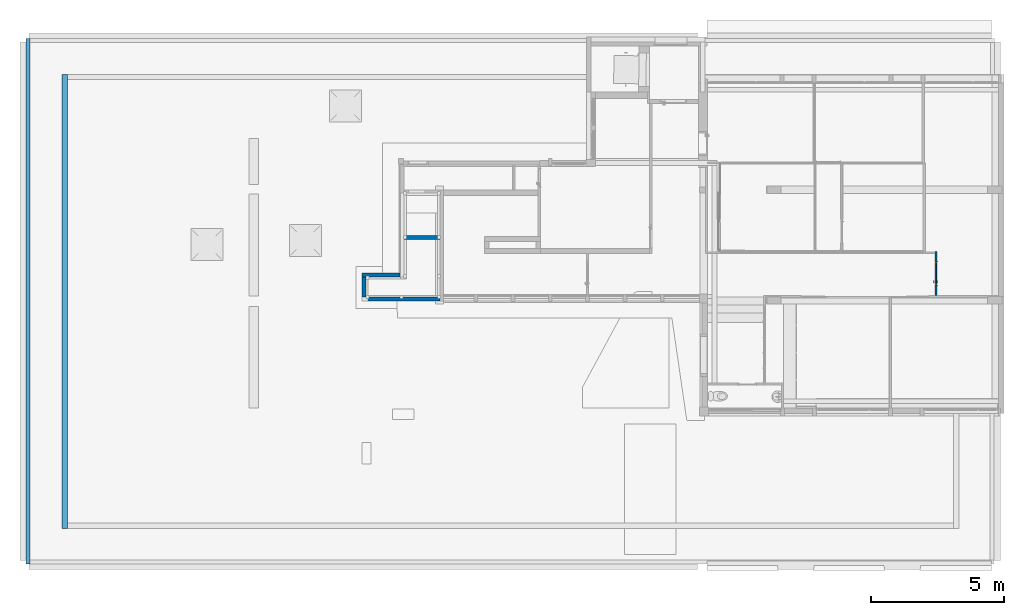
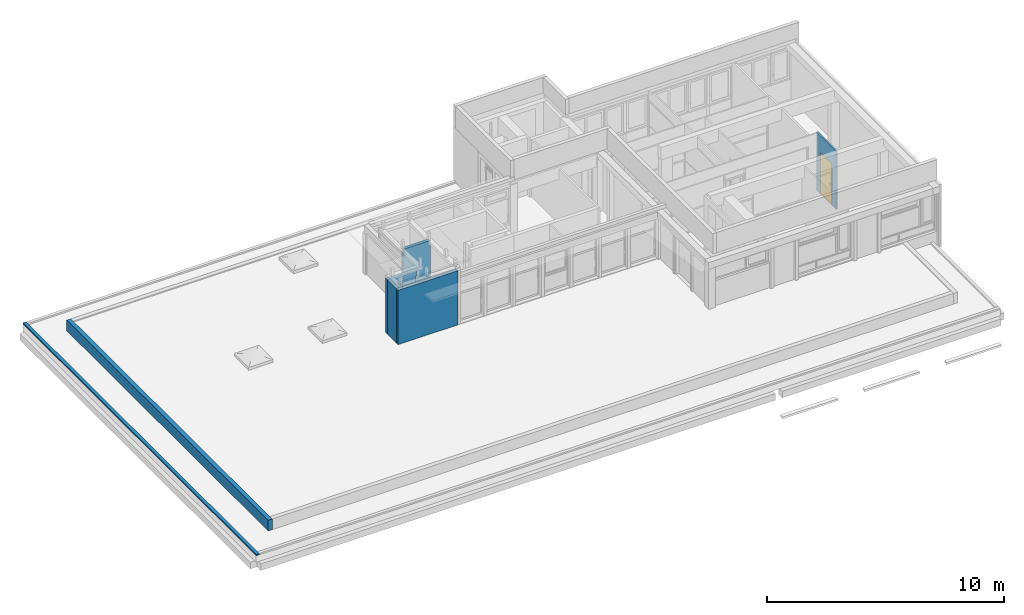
# One storey, part 26 of 49: 7 walls, 1 door, 1 opening.
"""IFC4 building model written with IfcOpenShell, lengths in metres."""

from ifc_helpers import new_model, entity, si_unit, converted_unit, derived_unit, direction, frame, origin, place, context, subcontext, project, spatial, indexed_curve, outline, extrude, polygons, source, transform, mapped, material, material_list, layer, layer_set, constituent, constituent_set, type_object, type_shapes, element, fill, save


model = new_model("IFC4")

# Units and contexts
model_context = context("Model", 3, precision=1e-05, world=origin(), true_north=direction((6.12303176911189e-17, 1.0)))
body_context = subcontext(model_context, "Body", "Model", "MODEL_VIEW")
ifc_project = project(units=[si_unit("LENGTHUNIT", "METRE"), si_unit("AREAUNIT", "SQUARE_METRE"), si_unit("VOLUMEUNIT", "CUBIC_METRE"), converted_unit("PLANEANGLEUNIT", "DEGREE", entity("IfcRatioMeasure", 0.0174532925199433), si_unit("PLANEANGLEUNIT", "RADIAN"), dimensions=[0, 0, 0, 0, 0, 0, 0]), si_unit("MASSUNIT", "GRAM", prefix="KILO"), derived_unit("MASSDENSITYUNIT", [(si_unit("MASSUNIT", "GRAM", prefix="KILO"), 1), (si_unit("LENGTHUNIT", "METRE"), -3)]), derived_unit("MOMENTOFINERTIAUNIT", [(si_unit("LENGTHUNIT", "METRE"), 4)]), si_unit("TIMEUNIT", "SECOND"), si_unit("FREQUENCYUNIT", "HERTZ"), si_unit("THERMODYNAMICTEMPERATUREUNIT", "DEGREE_CELSIUS"), derived_unit("THERMALTRANSMITTANCEUNIT", [(si_unit("MASSUNIT", "GRAM", prefix="KILO"), 1), (si_unit("THERMODYNAMICTEMPERATUREUNIT", "KELVIN"), -1), (si_unit("TIMEUNIT", "SECOND"), -3)]), derived_unit("VOLUMETRICFLOWRATEUNIT", [(si_unit("LENGTHUNIT", "METRE"), 3), (si_unit("TIMEUNIT", "SECOND"), -1)]), si_unit("ELECTRICCURRENTUNIT", "AMPERE"), si_unit("ELECTRICVOLTAGEUNIT", "VOLT"), si_unit("POWERUNIT", "WATT"), si_unit("FORCEUNIT", "NEWTON", prefix="KILO"), si_unit("ILLUMINANCEUNIT", "LUX"), si_unit("LUMINOUSFLUXUNIT", "LUMEN"), si_unit("LUMINOUSINTENSITYUNIT", "CANDELA"), derived_unit("USERDEFINED", [(si_unit("MASSUNIT", "GRAM", prefix="KILO"), -1), (si_unit("LENGTHUNIT", "METRE"), -2), (si_unit("TIMEUNIT", "SECOND"), 3), (si_unit("LUMINOUSFLUXUNIT", "LUMEN"), 1)]), derived_unit("LINEARVELOCITYUNIT", [(si_unit("LENGTHUNIT", "METRE"), 1), (si_unit("TIMEUNIT", "SECOND"), -1)]), si_unit("PRESSUREUNIT", "PASCAL"), derived_unit("USERDEFINED", [(si_unit("LENGTHUNIT", "METRE"), -2), (si_unit("MASSUNIT", "GRAM", prefix="KILO"), 1), (si_unit("TIMEUNIT", "SECOND"), -2)]), derived_unit("LINEARFORCEUNIT", [(si_unit("MASSUNIT", "GRAM", prefix="KILO"), 1), (si_unit("LENGTHUNIT", "METRE"), 1), (si_unit("TIMEUNIT", "SECOND"), -2), (si_unit("LENGTHUNIT", "METRE"), -1)]), derived_unit("PLANARFORCEUNIT", [(si_unit("MASSUNIT", "GRAM", prefix="KILO"), 1), (si_unit("LENGTHUNIT", "METRE"), 1), (si_unit("TIMEUNIT", "SECOND"), -2), (si_unit("LENGTHUNIT", "METRE"), -2)])], contexts=[model_context])

# Site, building, storey
site_placement = place(None, origin())
site = spatial("IfcSite", under=ifc_project, at=site_placement, Name="Default", CompositionType="ELEMENT")
building_placement = place(site_placement, origin())
building = spatial("IfcBuilding", under=site, at=building_placement, Name="HOTEL CONSULAIRE BOULOGNE SUR MER", CompositionType="ELEMENT")
storey_placement = place(building_placement, frame((0.0, 0.0, 6.81974152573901)))
storey = spatial("IfcBuildingStorey", under=building, at=storey_placement, Name="Niveau 2", CompositionType="ELEMENT", Elevation=6.81974152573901)

# Walls
ifc_material_1 = material(Name="Mur par défaut", Category="Divers")
ifc_layer_1 = layer(ifc_material_1, 0.15, Name="Mur par défaut", Category="Divers")
ifc_layer_set_1 = layer_set([ifc_layer_1], Name="Mur de base:Générique - Int. 150 mm")
wall_type_1 = type_object("IfcWallType", Name="Mur de base:Générique - Int. 150 mm", PredefinedType="NOTDEFINED", material=ifc_layer_set_1)
wall_1_placement = place(storey_placement, frame((0.161635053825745, -18.8296212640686, 0.642000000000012), z_axis=(0.0, 0.0, 1.0), x_axis=(-1.0, 0.0, 0.0)))
element("IfcWall", 1, at=wall_1_placement, inside=storey, type_object=wall_type_1, material=ifc_layer_set_1, Name="Mur de base:Générique - Int. 150 mm", ObjectType="Mur de base:Générique - Int. 150 mm", PredefinedType="NOTDEFINED", context=body_context, shape_type="Tessellation", body=[
    polygons([(1.447, -0.0750000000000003, 2.79989999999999), (1.43543327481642e-16, -0.0750000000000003, 2.79989999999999), (2.11222523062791e-16, -0.0750000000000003, 2.506), (0.0700000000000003, -0.0750000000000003, 2.506), (0.0700000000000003, -0.0750000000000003, 2.19799999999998), (0.0700000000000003, -0.0750000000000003, 2.09799999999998), (0.0700000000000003, -0.0750000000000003, 2.088), (0.0200000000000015, -0.0750000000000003, 2.088), (0.0200000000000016, -0.0750000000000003, 0.0), (1.447, -0.0750000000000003, 0.0), (-7.06825671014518e-18, 0.0750000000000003, 2.79989999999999), (1.297, 0.0750000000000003, 2.79989999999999), (1.447, 0.0750000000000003, 2.79989999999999), (1.447, 0.0750000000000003, 0.0), (1.297, 0.0750000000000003, 0.0), (0.0200000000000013, 0.0750000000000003, 0.0), (0.0200000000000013, 0.0750000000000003, 2.088), (0.0700000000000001, 0.0750000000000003, 2.088), (0.0700000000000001, 0.0750000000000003, 2.506), (-7.06825671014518e-18, 0.0750000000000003, 2.506)], [[[2, 3, 4, 5, 6, 7, 8, 9, 10, 1]], [[14, 15, 16, 17, 18, 19, 20, 11, 12, 13]], [[2, 1, 13, 12, 11]], [[7, 18, 17, 8]], [[1, 10, 14, 13]], [[16, 9, 8, 17]], [[18, 7, 6, 5, 4, 19]], [[20, 3, 2, 11]], [[20, 19, 4, 3]], [[15, 14, 10, 9, 16]]], closed=True),
])
wall_2_placement = place(storey_placement, frame((1.62747131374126, -19.7399143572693, 0.642000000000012), z_axis=(0.0, 0.0, 1.0), x_axis=(-1.0, 0.0, 0.0)))
element("IfcWall", 2, at=wall_2_placement, inside=storey, type_object=wall_type_1, material=ifc_layer_set_1, Name="Mur de base:Générique - Int. 150 mm", ObjectType="Mur de base:Générique - Int. 150 mm", PredefinedType="NOTDEFINED", context=body_context, shape_type="Tessellation", body=[
    polygons([(2.91283625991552, -0.0750000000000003, 2.79989999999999), (2.76283625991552, -0.0750000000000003, 2.79989999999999), (6.09990578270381e-16, -0.0750000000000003, 2.79989999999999), (6.09990578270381e-16, -0.0750000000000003, 0.0), (2.76283625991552, -0.0750000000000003, 0.0), (2.91283625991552, -0.0750000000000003, 0.0), (4.53780887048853e-16, 0.0750000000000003, 2.79989999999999), (2.91283625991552, 0.0750000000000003, 2.79989999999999), (2.91283625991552, 0.0750000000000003, 0.0), (4.53780887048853e-16, 0.0750000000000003, 0.0)], [[[3, 4, 5, 6, 1, 2]], [[8, 9, 10, 7]], [[2, 1, 8, 7, 3]], [[1, 6, 9, 8]], [[10, 4, 3, 7]], [[5, 4, 10, 9, 6]]], closed=True),
])
wall_3_placement = place(storey_placement, frame((-1.21036494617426, -18.9046212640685, 0.642000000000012), z_axis=(0.0, 0.0, 1.0), x_axis=(0.0, -1.0, 0.0)))
element("IfcWall", 3, at=wall_3_placement, inside=storey, type_object=wall_type_1, material=ifc_layer_set_1, Name="Mur de base:Générique - Int. 150 mm", ObjectType="Mur de base:Générique - Int. 150 mm", PredefinedType="NOTDEFINED", context=body_context, shape_type="Tessellation", body=[
    polygons([(0.760293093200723, -0.0750000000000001, 2.79989999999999), (0.0, -0.075, 2.79989999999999), (0.0, -0.075, 0.0), (0.760293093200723, -0.0750000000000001, 0.0), (0.0, 0.075, 2.79989999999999), (0.760293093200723, 0.0750000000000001, 2.79989999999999), (0.760293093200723, 0.0750000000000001, 0.0), (0.0, 0.075, 0.0)], [[[2, 3, 4, 1]], [[6, 7, 8, 5]], [[2, 1, 6, 5]], [[4, 7, 6, 1]], [[8, 3, 2, 5]], [[7, 4, 3, 8]]], closed=True),
])

# Wall, opening, door
ifc_layer_2 = layer(ifc_material_1, 0.08, Name="Mur par défaut", Category="Divers")
ifc_layer_set_2 = layer_set([ifc_layer_2], Name="Mur de base:Générique - Int. 80")
wall_type_2 = type_object("IfcWallType", Name="Mur de base:Générique - Int. 80", PredefinedType="NOTDEFINED", material=ifc_layer_set_2)
wall_4_placement = place(storey_placement, frame((20.2483568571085, -19.603155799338, -0.0349999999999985), z_axis=(0.0, 0.0, 1.0), x_axis=(0.0, 1.0, 0.0)))
wall_4 = element("IfcWall", 4, at=wall_4_placement, inside=storey, type_object=wall_type_2, material=ifc_layer_set_2, Name="Mur de base:Générique - Int. 80", ObjectType="Mur de base:Générique - Int. 80", PredefinedType="NOTDEFINED", context=body_context, shape_type="Tessellation", body=[
    polygons([(0.0, -0.0399999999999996, -1.08286712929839e-15), (1.64784790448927, -0.0399999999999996, -1.08286712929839e-15), (1.64784790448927, -0.0399999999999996, 2.99200000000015), (0.0, -0.0399999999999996, 2.99200000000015), (1.2746087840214, -0.0399999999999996, 2.11), (1.2746087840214, -0.0399999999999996, 0.0349999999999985), (0.374608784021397, -0.0399999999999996, 0.0349999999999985), (0.374608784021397, -0.0399999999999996, 2.11), (1.64784790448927, 0.0399999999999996, -1.08286712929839e-15), (1.62826826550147, 0.0399999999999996, -1.08286712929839e-15), (1.57826826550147, 0.0399999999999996, -1.08286712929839e-15), (0.0, 0.0399999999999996, -1.08286712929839e-15), (0.0, 0.0399999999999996, 2.99200000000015), (1.64784790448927, 0.0399999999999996, 2.99200000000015), (1.2746087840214, 0.0399999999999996, 0.0349999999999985), (1.2746087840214, 0.0399999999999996, 2.11), (0.374608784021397, 0.0399999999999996, 2.11), (0.374608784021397, 0.0399999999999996, 0.0349999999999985)], [[[1, 2, 3, 4], [8, 5, 6, 7]], [[14, 9, 10, 11, 12, 13], [16, 17, 18, 15]], [[2, 1, 12, 11, 10, 9]], [[17, 16, 5, 8]], [[3, 2, 9, 14]], [[18, 17, 8, 7]], [[16, 15, 6, 5]], [[12, 1, 4, 13]], [[15, 18, 7, 6]], [[14, 13, 4, 3]]], closed=True),
])
opening_placement = place(wall_4_placement, frame((0.374608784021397, -0.04, 0.0349999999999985)))
opening = element("IfcOpeningElement", 5, at=opening_placement, cuts=wall_4, Name="Int. Simple:PP (0.83m x 2.04m):1", ObjectType="Opening", PredefinedType="OPENING", context=body_context, shape_type="SweptSolid", body=[
    extrude(outline(indexed_curve([(0.0, 0.9), (0.0, 0.0), (2.075, 0.0), (2.075, 0.9), (0.0, 0.9)], self_intersect=False)), frame((0.0, 0.0, 0.0), z_axis=(0.0, 1.0, 0.0), x_axis=(0.0, 0.0, 1.0)), (0.0, 0.0, 1.0), 0.08),
])
ifc_material_2 = material(Name="Finition Peinture - Blanc satiné", Category="Peinture")
ifc_constituent_1 = constituent(ifc_material_2, Name="Finition Peinture - Blanc satiné", Category="Matériaux")
ifc_material_3 = material(Name="Bois - Panneau de porte", Category="Bois")
ifc_constituent_2 = constituent(ifc_material_3, Name="Bois - Panneau de porte", Category="Matériaux")
ifc_material_4 = material(Name="Bois - Cadre de porte", Category="Bois")
ifc_constituent_3 = constituent(ifc_material_4, Name="Bois - Cadre de porte", Category="Matériaux")
ifc_constituent_set = constituent_set(constituents=[ifc_constituent_1, ifc_constituent_2, ifc_constituent_3], Name="MaterialConstituentSet")
ifc_material_list = material_list([ifc_material_4, ifc_material_4, ifc_material_3, ifc_material_2])
door_type = type_object("IfcDoorType", Name="Int. Simple:PP (0.83m x 2.04m)", OperationType="NOTDEFINED", PredefinedType="DOOR", material=ifc_material_list)
shared_shape = source(origin(), body_context, "Body", "Tessellation", [
    polygons([(0.895000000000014, -0.00500000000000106, 0.870000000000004), (0.895000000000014, -0.00500000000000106, 1.08), (0.885352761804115, -0.00500000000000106, 1.08399601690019), (0.875000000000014, -0.00500000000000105, 1.08535898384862), (0.864647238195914, -0.00500000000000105, 1.08399601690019), (0.855000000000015, -0.00500000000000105, 1.08), (0.855000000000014, -0.00500000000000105, 0.870000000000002), (0.864647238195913, -0.00500000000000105, 0.866003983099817), (0.875000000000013, -0.00500000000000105, 0.86464101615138), (0.885352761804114, -0.00500000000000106, 0.866003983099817), (0.895000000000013, -1.06594733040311e-15, 0.870000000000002), (0.885352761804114, -1.06594733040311e-15, 0.866003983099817), (0.875000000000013, -1.05748743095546e-15, 0.86464101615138), (0.864647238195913, -1.05748743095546e-15, 0.866003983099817), (0.855000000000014, -1.04902753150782e-15, 0.870000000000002), (0.855000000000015, -1.04902753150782e-15, 1.08), (0.864647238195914, -1.05748743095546e-15, 1.08399601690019), (0.875000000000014, -1.05748743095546e-15, 1.08535898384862), (0.885352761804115, -1.06594733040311e-15, 1.08399601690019), (0.895000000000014, -1.06594733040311e-15, 1.08)], [[[1, 2, 3, 4, 5, 6, 7, 8, 9, 10]], [[20, 11, 12, 13, 14, 15, 16, 17, 18, 19]], [[10, 12, 11, 1]], [[9, 13, 12, 10]], [[8, 14, 13, 9]], [[8, 7, 15, 14]], [[15, 7, 6, 16]], [[5, 17, 16, 6]], [[4, 18, 17, 5]], [[3, 19, 18, 4]], [[3, 2, 20, 19]], [[11, 20, 2, 1]]], closed=True),
    polygons([(0.855000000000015, 0.0399999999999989, 1.08), (0.855000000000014, 0.0399999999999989, 0.870000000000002), (0.864647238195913, 0.0399999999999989, 0.866003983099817), (0.875000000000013, 0.0399999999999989, 0.86464101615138), (0.885352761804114, 0.0399999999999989, 0.866003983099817), (0.895000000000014, 0.0399999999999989, 0.870000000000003), (0.895000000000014, 0.0399999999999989, 1.08), (0.885352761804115, 0.0399999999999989, 1.08399601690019), (0.875000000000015, 0.0399999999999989, 1.08535898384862), (0.864647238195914, 0.0399999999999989, 1.08399601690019), (0.855000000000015, 0.0449999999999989, 1.08), (0.864647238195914, 0.0449999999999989, 1.08399601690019), (0.875000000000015, 0.0449999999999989, 1.08535898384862), (0.885352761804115, 0.0449999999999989, 1.08399601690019), (0.895000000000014, 0.0449999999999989, 1.08), (0.895000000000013, 0.0449999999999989, 0.870000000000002), (0.885352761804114, 0.0449999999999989, 0.866003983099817), (0.875000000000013, 0.0449999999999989, 0.86464101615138), (0.864647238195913, 0.0449999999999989, 0.866003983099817), (0.855000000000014, 0.0449999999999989, 0.870000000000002)], [[[6, 7, 8, 9, 10, 1, 2, 3, 4, 5]], [[13, 14, 15, 16, 17, 18, 19, 20, 11, 12]], [[10, 12, 11, 1]], [[9, 13, 12, 10]], [[8, 14, 13, 9]], [[8, 7, 15, 14]], [[16, 15, 7, 6]], [[5, 17, 16, 6]], [[4, 18, 17, 5]], [[3, 19, 18, 4]], [[3, 2, 20, 19]], [[20, 2, 1, 11]]], closed=True),
    polygons([(0.881000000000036, -0.00500000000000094, 1.00699999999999), (0.881000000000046, -0.00500000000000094, 0.992999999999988), (0.877025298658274, -0.00500000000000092, 0.99221955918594), (0.872974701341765, -0.0050000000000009, 0.992219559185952), (0.868999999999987, -0.00500000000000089, 0.993000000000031), (0.868999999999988, -0.00500000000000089, 1.007), (0.872974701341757, -0.0050000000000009, 1.00778044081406), (0.877025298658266, -0.00500000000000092, 1.00778044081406), (0.868999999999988, -0.0276803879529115, 1.007), (0.872974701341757, -0.0293267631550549, 1.00778044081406), (0.877025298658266, -0.0310045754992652, 1.00778044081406), (0.881000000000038, -0.0326509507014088, 1.007), (0.868999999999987, -0.0276803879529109, 0.993000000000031), (0.881000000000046, -0.0326509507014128, 0.992999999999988), (0.877025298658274, -0.0310045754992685, 0.99221955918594), (0.872974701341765, -0.0293267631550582, 0.992219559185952), (0.85765222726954, -0.0390281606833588, 1.007), (0.859298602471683, -0.0430028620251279, 1.00778044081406), (0.860976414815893, -0.0470534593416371, 1.00778044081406), (0.862622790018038, -0.0510281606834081, 1.007), (0.857652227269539, -0.0390281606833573, 0.993000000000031), (0.862622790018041, -0.0510281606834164, 0.992999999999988), (0.860976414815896, -0.047053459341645, 0.99221955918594), (0.859298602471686, -0.0430028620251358, 0.992219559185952), (0.774981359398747, -0.0510281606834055, 1.007), (0.774981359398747, -0.0470534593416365, 1.00778044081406), (0.774981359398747, -0.0430028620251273, 1.00778044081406), (0.774981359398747, -0.0390281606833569, 1.00699999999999), (0.774981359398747, -0.0390281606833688, 0.993000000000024), (0.774981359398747, -0.0430028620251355, 0.992219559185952), (0.774981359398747, -0.0470534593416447, 0.99221955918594), (0.774981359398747, -0.0510281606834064, 0.992999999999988), (0.822692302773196, -0.051028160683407, 1.007), (0.81713998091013, -0.045028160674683, 1.0078786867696), (0.816316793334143, -0.039028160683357, 1.007), (0.822692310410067, -0.0510281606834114, 0.992999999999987), (0.817139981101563, -0.0450281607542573, 0.992121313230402), (0.816316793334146, -0.039028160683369, 0.993000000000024)], [[[7, 8, 1, 2, 3, 4, 5, 6]], [[17, 21, 38, 29, 28, 35]], [[1, 8, 11, 12]], [[8, 7, 10, 18, 19, 11]], [[7, 6, 9, 10]], [[13, 9, 6, 5]], [[25, 26, 27, 28, 29, 30, 31, 32]], [[4, 16, 13, 5]], [[4, 3, 15, 23, 24, 16]], [[2, 14, 15, 3]], [[12, 14, 2, 1]], [[12, 11, 19, 20]], [[10, 9, 17, 18]], [[21, 17, 9, 13]], [[13, 16, 24, 21]], [[15, 14, 22, 23]], [[20, 22, 14, 12]], [[34, 26, 33]], [[33, 26, 25]], [[33, 20, 19]], [[18, 35, 34]], [[35, 18, 17]], [[28, 27, 35]], [[34, 27, 26]], [[34, 35, 27]], [[34, 33, 19]], [[18, 34, 19]], [[37, 30, 38]], [[31, 37, 36]], [[24, 38, 21]], [[30, 29, 38]], [[31, 36, 32]], [[36, 23, 22]], [[37, 23, 36]], [[37, 24, 23]], [[37, 38, 24]], [[30, 37, 31]], [[22, 20, 33, 25, 32, 36]]], closed=True),
    polygons([(0.868999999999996, 0.0449999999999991, 0.993000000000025), (0.872974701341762, 0.0449999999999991, 0.992219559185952), (0.877025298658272, 0.0449999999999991, 0.99221955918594), (0.881000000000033, 0.044999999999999, 0.992999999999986), (0.881000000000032, 0.044999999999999, 1.007), (0.877025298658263, 0.0449999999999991, 1.00778044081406), (0.872974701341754, 0.0449999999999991, 1.00778044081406), (0.868999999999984, 0.0449999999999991, 1.007), (0.868999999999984, 0.067485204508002, 1.007), (0.868999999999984, 0.0674852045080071, 0.993000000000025), (0.881000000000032, 0.0724557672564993, 1.007), (0.877025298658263, 0.070809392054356, 1.00778044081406), (0.872974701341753, 0.0691315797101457, 1.00778044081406), (0.881000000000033, 0.0724557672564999, 0.992999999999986), (0.872974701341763, 0.0691315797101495, 0.992219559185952), (0.877025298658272, 0.0708093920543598, 0.99221955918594), (0.857514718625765, 0.0789704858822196, 1.007), (0.857514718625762, 0.0789704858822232, 0.993000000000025), (0.862485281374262, 0.0909704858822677, 1.007), (0.860838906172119, 0.0869957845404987, 1.00778044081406), (0.859161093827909, 0.0829451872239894, 1.00778044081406), (0.862485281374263, 0.0909704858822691, 0.992999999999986), (0.859161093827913, 0.0829451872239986, 0.992219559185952), (0.860838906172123, 0.0869957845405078, 0.99221955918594), (0.77495421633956, 0.0789704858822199, 0.993000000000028), (0.77495421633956, 0.0789704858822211, 1.007), (0.77495421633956, 0.0829451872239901, 1.00778044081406), (0.77495421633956, 0.0869957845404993, 1.00778044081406), (0.77495421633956, 0.0909704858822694, 1.007), (0.77495421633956, 0.0909704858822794, 0.992999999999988), (0.77495421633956, 0.086995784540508, 0.99221955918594), (0.77495421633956, 0.0829451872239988, 0.992219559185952), (0.822554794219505, 0.0909704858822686, 1.007), (0.817057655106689, 0.0849704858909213, 1.0078786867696), (0.816234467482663, 0.0789704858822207, 1.007), (0.822554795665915, 0.0909704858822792, 0.992999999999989), (0.817057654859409, 0.0849704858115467, 0.992121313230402), (0.816234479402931, 0.0789704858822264, 0.993000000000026)], [[[2, 3, 4, 5, 6, 7, 8, 1]], [[18, 17, 35, 26, 25, 38]], [[9, 10, 1, 8]], [[27, 28, 29, 30, 31, 32, 25, 26]], [[7, 13, 9, 8]], [[7, 6, 12, 20, 21, 13]], [[5, 11, 12, 6]], [[11, 5, 4, 14]], [[4, 3, 16, 14]], [[3, 2, 15, 23, 24, 16]], [[2, 1, 10, 15]], [[17, 18, 10, 9]], [[9, 13, 21, 17]], [[11, 19, 20, 12]], [[22, 19, 11, 14]], [[14, 16, 24, 22]], [[15, 10, 18, 23]], [[34, 27, 35]], [[28, 34, 33]], [[21, 35, 17]], [[27, 26, 35]], [[28, 33, 29]], [[33, 20, 19]], [[34, 20, 33]], [[34, 21, 20]], [[34, 35, 21]], [[27, 34, 28]], [[19, 22, 36, 30, 29, 33]], [[37, 31, 36]], [[36, 31, 30]], [[36, 22, 24]], [[23, 38, 37]], [[38, 23, 18]], [[25, 32, 38]], [[37, 32, 31]], [[37, 38, 32]], [[37, 36, 24]], [[23, 37, 24]]], closed=True),
    polygons([(0.935000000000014, 0.04, 2.04), (0.935000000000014, 0.04, 0.0), (0.105000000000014, 0.04, 0.0), (0.105000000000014, 0.04, 2.04), (0.935000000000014, 3.38395977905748e-17, 2.04), (0.105000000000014, 3.38395977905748e-17, 2.04), (0.105000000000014, 3.38395977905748e-17, 0.0), (0.935000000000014, 3.38395977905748e-17, 0.0)], [[[3, 4, 1, 2]], [[5, 6, 7, 8]], [[5, 1, 4, 6]], [[6, 4, 3, 7]], [[8, 7, 3, 2]], [[8, 2, 1, 5]]], closed=True),
    polygons([(0.970000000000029, -8.45989944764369e-18, 0.0), (0.935000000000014, -8.45989944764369e-18, 0.0), (0.935000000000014, 0.0400000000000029, 0.0), (0.920000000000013, 0.0400000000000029, 0.0), (0.920000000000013, 0.080000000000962, 0.0), (0.970000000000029, 0.080000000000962, 0.0), (0.970000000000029, 0.080000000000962, 2.07500000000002), (0.970000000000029, -8.45989944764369e-18, 2.07500000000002), (0.920000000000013, 0.080000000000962, 2.025), (0.120000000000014, 0.080000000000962, 2.025), (0.120000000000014, 0.080000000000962, 6.02669015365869e-24), (0.0699999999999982, 0.080000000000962, 9.23443718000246e-25), (0.0699999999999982, 0.080000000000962, 2.07500000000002), (0.920000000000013, 0.0400000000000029, 2.025), (0.935000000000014, 0.0400000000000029, 2.04), (0.105000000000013, 0.0400000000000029, 2.04), (0.105000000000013, 0.0400000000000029, 1.51399294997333e-24), (0.120000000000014, 0.0400000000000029, 1.99209609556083e-25), (0.120000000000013, 0.0400000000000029, 2.025), (0.935000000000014, -8.45989944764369e-18, 2.04), (0.0699999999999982, -8.45989944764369e-18, 2.07500000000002), (0.0699999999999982, -8.45989944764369e-18, 1.81925185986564e-24), (0.105000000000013, -8.45989944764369e-18, 3.40121094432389e-24), (0.105000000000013, -8.45989944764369e-18, 2.04)], [[[5, 6, 1, 2, 3, 4]], [[17, 23, 22, 12, 11, 18]], [[19, 10, 9, 14]], [[24, 16, 15, 20]], [[7, 8, 1, 6]], [[18, 11, 10, 19]], [[17, 16, 24, 23]], [[9, 10, 11, 12, 13, 7, 6, 5]], [[14, 9, 5, 4]], [[15, 3, 2, 20]], [[12, 22, 21, 13]], [[19, 14, 4, 3, 15, 16, 17, 18]], [[24, 20, 2, 1, 8, 21, 22, 23]], [[13, 21, 8, 7]]], closed=True),
    polygons([(0.955000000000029, 0.080000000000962, 1.35358391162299e-16), (0.955000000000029, 0.085000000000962, 1.35358391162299e-16), (0.985000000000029, 0.085000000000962, 1.35358391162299e-16), (0.985000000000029, 0.080000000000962, 1.35358391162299e-16), (0.985000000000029, 0.080000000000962, 2.09000000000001), (0.0550000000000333, 0.080000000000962, 2.09000000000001), (0.0550000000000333, 0.080000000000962, -5.44393448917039e-24), (0.0850000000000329, 0.080000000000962, 5.09144898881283e-24), (0.0850000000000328, 0.080000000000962, 2.06000000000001), (0.955000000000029, 0.080000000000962, 2.06000000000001), (0.985000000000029, 0.085000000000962, 2.09000000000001), (0.955000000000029, 0.085000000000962, 2.06000000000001), (0.0850000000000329, 0.085000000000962, 2.06000000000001), (0.0850000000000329, 0.085000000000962, -1.89153776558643e-24), (0.055000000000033, 0.085000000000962, 5.03766794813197e-24), (0.0550000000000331, 0.085000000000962, 2.09000000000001)], [[[2, 3, 4, 1]], [[7, 15, 14, 8]], [[13, 12, 10, 9]], [[9, 10, 1, 4, 5, 6, 7, 8]], [[11, 5, 4, 3]], [[8, 14, 13, 9]], [[12, 13, 14, 15, 16, 11, 3, 2]], [[10, 12, 2, 1]], [[15, 7, 6, 16]], [[16, 6, 5, 11]]], closed=True),
    polygons([(0.955000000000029, -0.00499999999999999, 1.35358391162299e-16), (0.955000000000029, -8.45989944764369e-18, 1.35358391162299e-16), (0.985000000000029, -8.45989944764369e-18, 1.35358391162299e-16), (0.985000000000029, -0.00499999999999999, 1.35358391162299e-16), (0.0850000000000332, -0.00499999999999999, -1.35358391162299e-16), (0.0550000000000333, -0.00499999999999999, -1.35358391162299e-16), (0.055000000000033, -8.45989944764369e-18, -1.35358391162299e-16), (0.0850000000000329, -8.45989944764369e-18, -1.35358391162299e-16), (0.985000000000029, -0.00499999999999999, 2.09000000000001), (0.0550000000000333, -0.00499999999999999, 2.09000000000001), (0.0850000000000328, -0.00499999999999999, 2.06000000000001), (0.955000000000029, -0.00499999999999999, 2.06000000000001), (0.985000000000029, -8.45989944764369e-18, 2.09000000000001), (0.955000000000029, -8.45989944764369e-18, 2.06000000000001), (0.0850000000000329, -8.45989944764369e-18, 2.06000000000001), (0.0550000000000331, -8.45989944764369e-18, 2.09000000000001)], [[[2, 3, 4, 1]], [[6, 7, 8, 5]], [[11, 15, 14, 12]], [[11, 12, 1, 4, 9, 10, 6, 5]], [[9, 4, 3, 13]], [[5, 8, 15, 11]], [[14, 15, 8, 7, 16, 13, 3, 2]], [[12, 14, 2, 1]], [[7, 6, 10, 16]], [[16, 10, 9, 13]]], closed=True),
])
type_shapes(door_type, [shared_shape])
door_placement = place(opening_placement, frame((0.970000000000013, 0.0799999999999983, 0.0), z_axis=(0.0, 0.0, 1.0), x_axis=(-1.0, 0.0, 0.0)))
door = element("IfcDoor", 6, at=door_placement, inside=storey, type_object=door_type, material=ifc_constituent_set, Name="Int. Simple:PP (0.83m x 2.04m)", ObjectType="Int. Simple:PP (0.83m x 2.04m)", OperationType="NOTDEFINED", OverallHeight=2.075, OverallWidth=0.899999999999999, PredefinedType="DOOR", context=body_context, shape_type="MappedRepresentation", body=[
    mapped(shared_shape, transform((0.0, 0.0, 0.0), scale=1.0)),
])
fill(opening, door)

# Walls
ifc_layer_3 = layer(ifc_material_1, 0.2, Name="Mur par défaut", Category="Divers")
ifc_layer_set_3 = layer_set([ifc_layer_3], Name="Mur de base:Générique - Ext. 200 mm")
wall_type_3 = type_object("IfcWallType", Name="Mur de base:Générique - Ext. 200 mm", PredefinedType="NOTDEFINED", material=ifc_layer_set_3)
wall_5_placement = place(storey_placement, frame((-12.4498681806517, -28.3378463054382, 0.142000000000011), z_axis=(0.0, 0.0, 1.0), x_axis=(0.0, 1.0, 0.0)))
element("IfcWall", 7, at=wall_5_placement, inside=storey, type_object=wall_type_3, material=ifc_layer_set_3, Name="Mur de base:Générique - Ext. 200 mm", ObjectType="Mur de base:Générique - Ext. 200 mm", PredefinedType="NOTDEFINED", context=body_context, shape_type="Tessellation", body=[
    polygons([(17.0322125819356, -0.1, 0.546999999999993), (16.8322125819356, -0.100000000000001, 0.546999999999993), (0.199999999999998, -0.1, 0.546999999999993), (0.0, -0.100000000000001, 0.546999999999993), (0.0, -0.100000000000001, 1.08286712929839e-15), (0.199999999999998, -0.1, 1.08286712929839e-15), (16.8322125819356, -0.100000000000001, 1.08286712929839e-15), (17.0322125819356, -0.1, 1.08286712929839e-15), (0.0, 0.0999999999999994, 0.546999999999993), (17.0322125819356, 0.0999999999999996, 0.546999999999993), (17.0322125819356, 0.0999999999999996, 1.08286712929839e-15), (0.0, 0.0999999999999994, 1.08286712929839e-15)], [[[5, 6, 7, 8, 1, 2, 3, 4]], [[10, 11, 12, 9]], [[4, 3, 2, 1, 10, 9]], [[9, 12, 5, 4]], [[1, 8, 11, 10]], [[6, 5, 12, 11, 8, 7]]], closed=True),
])
ifc_layer_4 = layer(ifc_material_1, 0.15, Name="Mur par défaut", Category="Divers")
ifc_layer_set_4 = layer_set([ifc_layer_4], Name="Mur de base:Générique - Ext. 150 mm")
wall_type_4 = type_object("IfcWallType", Name="Mur de base:Générique - Ext. 150 mm", PredefinedType="NOTDEFINED", material=ifc_layer_set_4)
wall_6_placement = place(storey_placement, frame((1.62747131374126, -17.4199019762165, 0.0), z_axis=(0.0, 0.0, 1.0), x_axis=(-1.0, 0.0, 0.0)))
element("IfcWall", 8, at=wall_6_placement, inside=storey, type_object=wall_type_4, material=ifc_layer_set_4, Name="Mur de base:Générique - Ext. 150 mm", ObjectType="Mur de base:Générique - Ext. 150 mm", PredefinedType="NOTDEFINED", context=body_context, shape_type="Tessellation", body=[
    polygons([(4.52487615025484e-16, -0.0750000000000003, 0.0), (1.33583625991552, -0.0750000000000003, 0.0), (1.33583625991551, -0.0750000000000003, 3.4419), (1.24583625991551, -0.0750000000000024, 3.4419), (1.24583625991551, -0.0750000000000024, 3.59194719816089), (4.52487615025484e-16, -0.0750000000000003, 3.59194719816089), (1.33583625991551, 0.0750000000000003, 0.0), (-2.82232566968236e-17, 0.0750000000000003, 0.0), (-2.82232566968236e-17, 0.0750000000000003, 3.59194719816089), (1.24583625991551, 0.0749999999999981, 3.59194719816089), (1.24583625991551, 0.0749999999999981, 3.4419), (1.33583625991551, 0.0750000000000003, 3.4419)], [[[6, 1, 2, 3, 4, 5]], [[11, 12, 7, 8, 9, 10]], [[2, 1, 8, 7]], [[6, 5, 10, 9]], [[11, 4, 3, 12]], [[9, 8, 1, 6]], [[2, 7, 12, 3]], [[10, 5, 4, 11]]], closed=True),
])
wall_7_placement = place(storey_placement, frame((-13.8327173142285, -29.6748025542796, 0.142000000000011), z_axis=(0.0, 0.0, 1.0), x_axis=(0.0, 1.0, 0.0)))
element("IfcWall", 9, at=wall_7_placement, inside=storey, type_object=wall_type_4, material=ifc_layer_set_4, Name="Mur de base:Générique - Ext. 150 mm", ObjectType="Mur de base:Générique - Ext. 150 mm", PredefinedType="NOTDEFINED", context=body_context, shape_type="Tessellation", body=[
    polygons([(19.7175641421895, -0.0749999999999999, 0.0750000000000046), (19.5675641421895, -0.0750000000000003, 0.0750000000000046), (0.150000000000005, -0.0750000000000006, 0.0750000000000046), (0.0, -0.075000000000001, 0.0750000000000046), (0.0, -0.075000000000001, 1.08286712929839e-15), (19.7175641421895, -0.0749999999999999, 1.08286712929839e-15), (0.0, 0.0749999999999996, 0.0750000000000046), (19.7175641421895, 0.0750000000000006, 0.0750000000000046), (19.7175641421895, 0.0750000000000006, 1.08286712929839e-15), (0.0, 0.0749999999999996, 1.08286712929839e-15)], [[[4, 5, 6, 1, 2, 3]], [[8, 9, 10, 7]], [[4, 3, 2, 1, 8, 7]], [[7, 10, 5, 4]], [[1, 6, 9, 8]], [[6, 5, 10, 9]]], closed=True),
])

save(model, "model.ifc")
